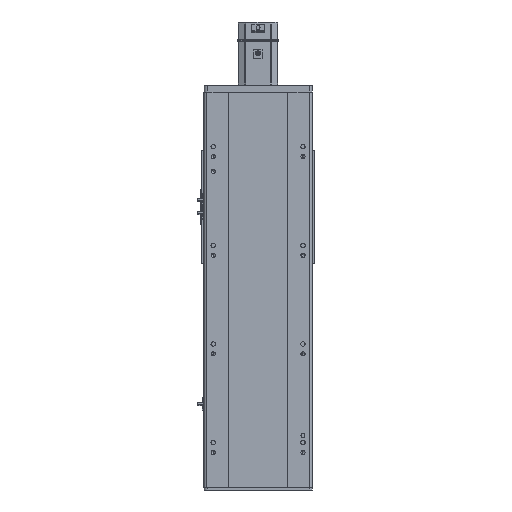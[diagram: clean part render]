
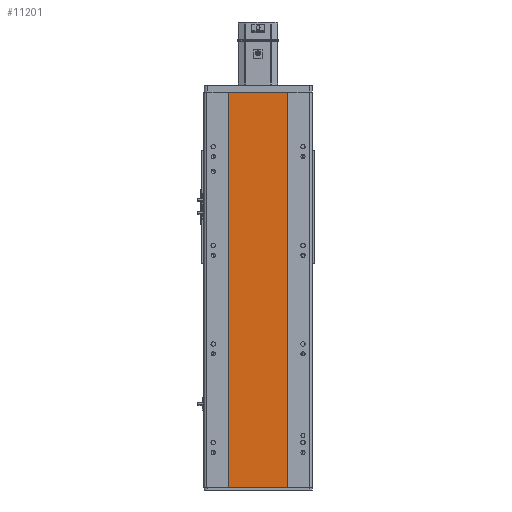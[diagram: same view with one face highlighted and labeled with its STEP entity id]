
A CAD part, front view. The second image highlights one B-rep face of the part: STEP entity #11201.
In plain terms, the highlighted planar face has unit normal (0, -1, 0).
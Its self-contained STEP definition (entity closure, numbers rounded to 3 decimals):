
#637 = DIRECTION ( 'NONE',  ( 1., 0., 0. ) ) ;
#1038 = CARTESIAN_POINT ( 'NONE',  ( -59., 1., 400.5 ) ) ;
#3420 = ORIENTED_EDGE ( 'NONE', *, *, #14267, .F. ) ;
#3588 = DIRECTION ( 'NONE',  ( 0., 1., 0. ) ) ;
#4188 = CARTESIAN_POINT ( 'NONE',  ( 59., 1., 400.5 ) ) ;
#4345 = CARTESIAN_POINT ( 'NONE',  ( -59., 1., 400.5 ) ) ;
#5065 = EDGE_CURVE ( 'NONE', #14998, #25539, #19453, .T. ) ;
#6236 = ORIENTED_EDGE ( 'NONE', *, *, #5065, .F. ) ;
#6334 = PLANE ( 'NONE',  #34729 ) ;
#8428 = VECTOR ( 'NONE', #637, 1000. ) ;
#8497 = FACE_OUTER_BOUND ( 'NONE', #25958, .T. ) ;
#9994 = VECTOR ( 'NONE', #10459, 1000. ) ;
#10064 = DIRECTION ( 'NONE',  ( 0., 0., -1. ) ) ;
#10332 = ORIENTED_EDGE ( 'NONE', *, *, #36829, .T. ) ;
#10459 = DIRECTION ( 'NONE',  ( 0., 0., -1. ) ) ;
#11201 = ADVANCED_FACE ( 'NONE', ( #8497 ), #6334, .F. ) ;
#11291 = CARTESIAN_POINT ( 'NONE',  ( 59., 1., 400.5 ) ) ;
#14267 = EDGE_CURVE ( 'NONE', #25539, #27349, #30040, .T. ) ;
#14998 = VERTEX_POINT ( 'NONE', #1038 ) ;
#15068 = CARTESIAN_POINT ( 'NONE',  ( -59., 1., -400.5 ) ) ;
#17771 = DIRECTION ( 'NONE',  ( -1., 0., 0. ) ) ;
#19453 = LINE ( 'NONE', #4345, #33691 ) ;
#19632 = EDGE_CURVE ( 'NONE', #14998, #34298, #32645, .T. ) ;
#19654 = ORIENTED_EDGE ( 'NONE', *, *, #19632, .T. ) ;
#20378 = CARTESIAN_POINT ( 'NONE',  ( -59., 1., 400.5 ) ) ;
#21179 = VECTOR ( 'NONE', #10064, 1000. ) ;
#23554 = CARTESIAN_POINT ( 'NONE',  ( -59., 1., -400.5 ) ) ;
#25539 = VERTEX_POINT ( 'NONE', #11291 ) ;
#25958 = EDGE_LOOP ( 'NONE', ( #10332, #3420, #6236, #19654 ) ) ;
#26640 = LINE ( 'NONE', #15068, #8428 ) ;
#27349 = VERTEX_POINT ( 'NONE', #36455 ) ;
#30040 = LINE ( 'NONE', #4188, #21179 ) ;
#32645 = LINE ( 'NONE', #33402, #9994 ) ;
#33402 = CARTESIAN_POINT ( 'NONE',  ( -59., 1., 400.5 ) ) ;
#33691 = VECTOR ( 'NONE', #35802, 1000. ) ;
#34298 = VERTEX_POINT ( 'NONE', #23554 ) ;
#34729 = AXIS2_PLACEMENT_3D ( 'NONE', #20378, #3588, #17771 ) ;
#35802 = DIRECTION ( 'NONE',  ( 1., 0., 0. ) ) ;
#36455 = CARTESIAN_POINT ( 'NONE',  ( 59., 1., -400.5 ) ) ;
#36829 = EDGE_CURVE ( 'NONE', #34298, #27349, #26640, .T. ) ;
